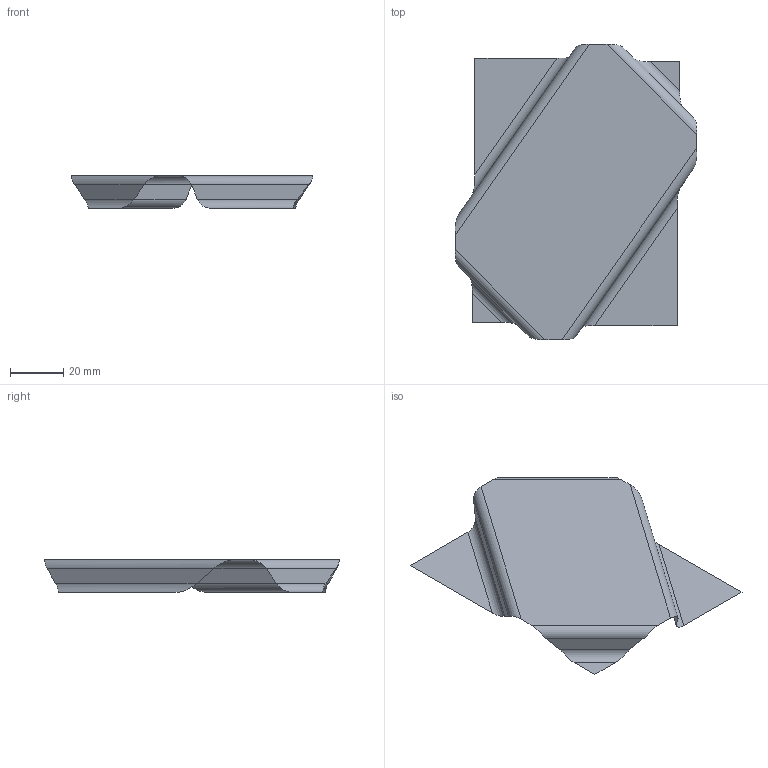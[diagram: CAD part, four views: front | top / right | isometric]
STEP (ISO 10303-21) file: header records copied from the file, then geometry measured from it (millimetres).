
FILE_DESCRIPTION(('CATIA V5 STEP Exchange'),'2;1');
FILE_NAME('C:\_Andres\UNIVERSIDAD\IQS\ASIGNATURAS\DAO\EXF\EXF-15161c\1original\Aloguín_Serramia_Ej03-chapa_v1.stp','2016-03-04T16:55:35+00:00',('none'),('none'),'CATIA Version 5 Release 20 SP 1 (IN-10)','CATIA V5 STEP AP203','none');
FILE_SCHEMA(('CONFIG_CONTROL_DESIGN'));
Length unit declared in the file: millimetre
Products named in the file (1): Aloguín_Serramia_Ej03-chapa_v1
Bounding box: 91.01 x 111.01 x 12.29 mm (x, y, z)
Surface area: 10136.8 mm2 (no closed solid volume)
Topology: 0 solids, 1 shells, 17 faces, 52 edges, 36 vertices
Faces by surface type: plane 9, cylinder 8
Entity records: 622 total; most frequent: CARTESIAN_POINT 203, ORIENTED_EDGE 68, DIRECTION 56, EDGE_CURVE 52, VERTEX_POINT 36, B_SPLINE_CURVE_WITH_KNOTS 32, VECTOR 20, LINE 20
